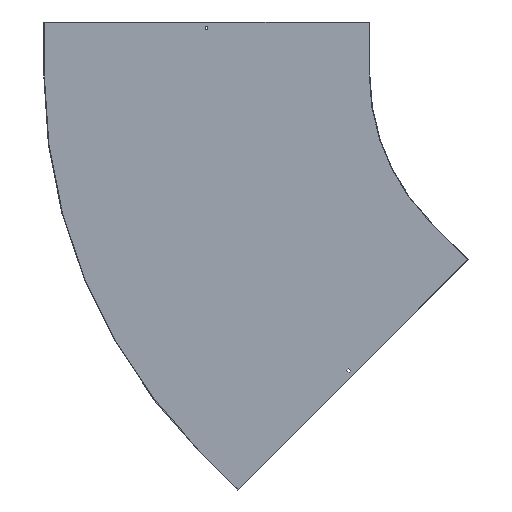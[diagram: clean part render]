
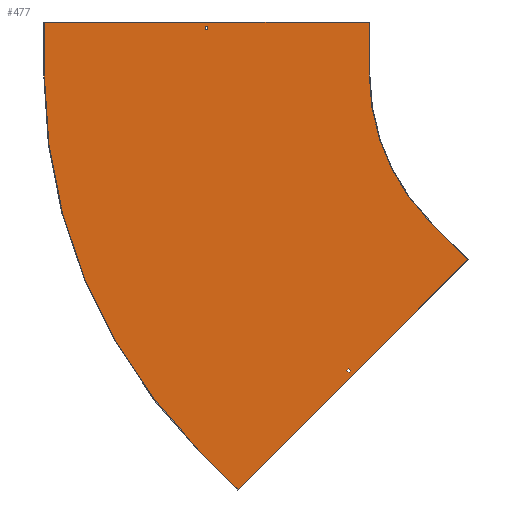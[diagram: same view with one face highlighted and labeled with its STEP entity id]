
A CAD part, front view. The second image highlights one B-rep face of the part: STEP entity #477.
In plain terms, the highlighted planar face has unit normal (0, -1, 0).
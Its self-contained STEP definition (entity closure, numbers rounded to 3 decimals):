
#2 = ORIENTED_EDGE ( 'NONE', *, *, #92, .F. ) ;
#3 = DIRECTION ( 'NONE',  ( 0., 0., -1. ) ) ;
#9 = VECTOR ( 'NONE', #553, 1000. ) ;
#11 = DIRECTION ( 'NONE',  ( 0.707, 0., 0.707 ) ) ;
#22 = CIRCLE ( 'NONE', #788, 590. ) ;
#27 = VECTOR ( 'NONE', #104, 1000. ) ;
#28 = VERTEX_POINT ( 'NONE', #346 ) ;
#29 = CARTESIAN_POINT ( 'NONE',  ( -1510., -1.5, 0. ) ) ;
#44 = CARTESIAN_POINT ( 'NONE',  ( -1053.25, -1.5, 129. ) ) ;
#45 = ORIENTED_EDGE ( 'NONE', *, *, #336, .F. ) ;
#60 = LINE ( 'NONE', #533, #703 ) ;
#61 = LINE ( 'NONE', #509, #454 ) ;
#63 = VERTEX_POINT ( 'NONE', #230 ) ;
#66 = CARTESIAN_POINT ( 'NONE',  ( -642.583, -1.5, -837.745 ) ) ;
#75 = CARTESIAN_POINT ( 'NONE',  ( -1046.75, -1.5, 0. ) ) ;
#88 = LINE ( 'NONE', #599, #416 ) ;
#92 = EDGE_CURVE ( 'NONE', #762, #537, #22, .T. ) ;
#101 = DIRECTION ( 'NONE',  ( 0., 0., -1. ) ) ;
#104 = DIRECTION ( 'NONE',  ( 0., 0., 1. ) ) ;
#107 = DIRECTION ( 'NONE',  ( 0., 0., -1. ) ) ;
#128 = CARTESIAN_POINT ( 'NONE',  ( 0., -1.5, 0. ) ) ;
#138 = LINE ( 'NONE', #796, #575 ) ;
#142 = ORIENTED_EDGE ( 'NONE', *, *, #689, .F. ) ;
#144 = LINE ( 'NONE', #744, #198 ) ;
#153 = CARTESIAN_POINT ( 'NONE',  ( -1053.25, -1.5, 0. ) ) ;
#169 = CARTESIAN_POINT ( 'NONE',  ( -417.193, -1.5, -417.193 ) ) ;
#178 = CARTESIAN_POINT ( 'NONE',  ( 0., -1.5, 138. ) ) ;
#182 = CARTESIAN_POINT ( 'NONE',  ( -590., -1.5, 0. ) ) ;
#192 = DIRECTION ( 'NONE',  ( 1., 0., 0. ) ) ;
#194 = VERTEX_POINT ( 'NONE', #453 ) ;
#198 = VECTOR ( 'NONE', #11, 1000. ) ;
#206 = EDGE_LOOP ( 'NONE', ( #267, #302, #622, #358 ) ) ;
#207 = FACE_BOUND ( 'NONE', #206, .T. ) ;
#215 = VECTOR ( 'NONE', #674, 1000. ) ;
#219 = LINE ( 'NONE', #811, #833 ) ;
#225 = CARTESIAN_POINT ( 'NONE',  ( -1510., -1.5, 150. ) ) ;
#230 = CARTESIAN_POINT ( 'NONE',  ( -1053.25, -1.5, 138. ) ) ;
#237 = DIRECTION ( 'NONE',  ( 0., 1., 0. ) ) ;
#239 = EDGE_CURVE ( 'NONE', #537, #610, #294, .T. ) ;
#242 = CARTESIAN_POINT ( 'NONE',  ( -311.127, -1.5, -523.259 ) ) ;
#262 = EDGE_CURVE ( 'NONE', #28, #791, #748, .T. ) ;
#267 = ORIENTED_EDGE ( 'NONE', *, *, #733, .T. ) ;
#268 = ORIENTED_EDGE ( 'NONE', *, *, #481, .F. ) ;
#294 = LINE ( 'NONE', #488, #546 ) ;
#302 = ORIENTED_EDGE ( 'NONE', *, *, #859, .T. ) ;
#308 = VERTEX_POINT ( 'NONE', #44 ) ;
#332 = CARTESIAN_POINT ( 'NONE',  ( -961.665, -1.5, -1173.797 ) ) ;
#336 = EDGE_CURVE ( 'NONE', #457, #535, #377, .T. ) ;
#343 = CARTESIAN_POINT ( 'NONE',  ( -1510., -1.5, 0. ) ) ;
#346 = CARTESIAN_POINT ( 'NONE',  ( -1067.731, -1.5, -1067.731 ) ) ;
#347 = FACE_OUTER_BOUND ( 'NONE', #464, .T. ) ;
#351 = LINE ( 'NONE', #29, #564 ) ;
#358 = ORIENTED_EDGE ( 'NONE', *, *, #580, .T. ) ;
#366 = LINE ( 'NONE', #153, #27 ) ;
#377 = LINE ( 'NONE', #379, #845 ) ;
#379 = CARTESIAN_POINT ( 'NONE',  ( -744.76, -1.5, -744.76 ) ) ;
#383 = EDGE_CURVE ( 'NONE', #540, #627, #61, .T. ) ;
#399 = ORIENTED_EDGE ( 'NONE', *, *, #414, .F. ) ;
#414 = EDGE_CURVE ( 'NONE', #663, #457, #536, .T. ) ;
#416 = VECTOR ( 'NONE', #101, 1000. ) ;
#420 = DIRECTION ( 'NONE',  ( -1., 0., 0. ) ) ;
#428 = VERTEX_POINT ( 'NONE', #332 ) ;
#446 = LINE ( 'NONE', #178, #740 ) ;
#453 = CARTESIAN_POINT ( 'NONE',  ( -1046.75, -1.5, 129. ) ) ;
#454 = VECTOR ( 'NONE', #192, 1000. ) ;
#456 = AXIS2_PLACEMENT_3D ( 'NONE', #830, #237, #107 ) ;
#457 = VERTEX_POINT ( 'NONE', #543 ) ;
#464 = EDGE_LOOP ( 'NONE', ( #601, #142, #561, #268, #699, #712, #2, #724 ) ) ;
#467 = PLANE ( 'NONE',  #805 ) ;
#472 = DIRECTION ( 'NONE',  ( -0.707, 0., 0.707 ) ) ;
#477 = ADVANCED_FACE ( 'NONE', ( #798, #347, #207 ), #467, .T. ) ;
#481 = EDGE_CURVE ( 'NONE', #428, #28, #219, .T. ) ;
#485 = VERTEX_POINT ( 'NONE', #66 ) ;
#488 = CARTESIAN_POINT ( 'NONE',  ( -417.193, -1.5, -417.193 ) ) ;
#492 = EDGE_CURVE ( 'NONE', #535, #485, #144, .T. ) ;
#497 = CARTESIAN_POINT ( 'NONE',  ( -590., -1.5, 150. ) ) ;
#500 = ORIENTED_EDGE ( 'NONE', *, *, #492, .F. ) ;
#509 = CARTESIAN_POINT ( 'NONE',  ( -1511.5, -1.5, 150. ) ) ;
#522 = EDGE_CURVE ( 'NONE', #627, #762, #88, .T. ) ;
#532 = VERTEX_POINT ( 'NONE', #619 ) ;
#533 = CARTESIAN_POINT ( 'NONE',  ( -310.066, -1.5, -522.198 ) ) ;
#535 = VERTEX_POINT ( 'NONE', #825 ) ;
#536 = LINE ( 'NONE', #669, #215 ) ;
#537 = VERTEX_POINT ( 'NONE', #169 ) ;
#538 = EDGE_LOOP ( 'NONE', ( #759, #500, #45, #399 ) ) ;
#540 = VERTEX_POINT ( 'NONE', #225 ) ;
#543 = CARTESIAN_POINT ( 'NONE',  ( -653.543, -1.5, -835.977 ) ) ;
#546 = VECTOR ( 'NONE', #625, 1000. ) ;
#553 = DIRECTION ( 'NONE',  ( 0., 0., -1. ) ) ;
#561 = ORIENTED_EDGE ( 'NONE', *, *, #262, .F. ) ;
#564 = VECTOR ( 'NONE', #815, 1000. ) ;
#565 = CARTESIAN_POINT ( 'NONE',  ( 0., -1.5, 0. ) ) ;
#567 = LINE ( 'NONE', #628, #630 ) ;
#575 = VECTOR ( 'NONE', #739, 1000. ) ;
#580 = EDGE_CURVE ( 'NONE', #308, #63, #366, .T. ) ;
#582 = DIRECTION ( 'NONE',  ( 1., 0., 0. ) ) ;
#592 = DIRECTION ( 'NONE',  ( 0.707, 0., -0.707 ) ) ;
#599 = CARTESIAN_POINT ( 'NONE',  ( -590., -1.5, 150. ) ) ;
#601 = ORIENTED_EDGE ( 'NONE', *, *, #383, .F. ) ;
#610 = VERTEX_POINT ( 'NONE', #242 ) ;
#613 = EDGE_CURVE ( 'NONE', #194, #308, #567, .T. ) ;
#619 = CARTESIAN_POINT ( 'NONE',  ( -1046.75, -1.5, 138. ) ) ;
#622 = ORIENTED_EDGE ( 'NONE', *, *, #613, .T. ) ;
#625 = DIRECTION ( 'NONE',  ( 0.707, 0., -0.707 ) ) ;
#627 = VERTEX_POINT ( 'NONE', #497 ) ;
#628 = CARTESIAN_POINT ( 'NONE',  ( 0., -1.5, 129. ) ) ;
#630 = VECTOR ( 'NONE', #420, 1000. ) ;
#663 = VERTEX_POINT ( 'NONE', #681 ) ;
#668 = DIRECTION ( 'NONE',  ( -0.707, 0., -0.707 ) ) ;
#669 = CARTESIAN_POINT ( 'NONE',  ( 91.217, -1.5, -91.217 ) ) ;
#674 = DIRECTION ( 'NONE',  ( -0.707, 0., -0.707 ) ) ;
#681 = CARTESIAN_POINT ( 'NONE',  ( -648.947, -1.5, -831.381 ) ) ;
#683 = DIRECTION ( 'NONE',  ( 0., 0., -1. ) ) ;
#689 = EDGE_CURVE ( 'NONE', #791, #540, #351, .T. ) ;
#699 = ORIENTED_EDGE ( 'NONE', *, *, #847, .F. ) ;
#703 = VECTOR ( 'NONE', #668, 1000. ) ;
#712 = ORIENTED_EDGE ( 'NONE', *, *, #239, .F. ) ;
#724 = ORIENTED_EDGE ( 'NONE', *, *, #522, .F. ) ;
#732 = DIRECTION ( 'NONE',  ( 0., -1., 0. ) ) ;
#733 = EDGE_CURVE ( 'NONE', #63, #532, #446, .T. ) ;
#739 = DIRECTION ( 'NONE',  ( -0.707, 0., 0.707 ) ) ;
#740 = VECTOR ( 'NONE', #582, 1000. ) ;
#744 = CARTESIAN_POINT ( 'NONE',  ( 97.581, -1.5, -97.581 ) ) ;
#748 = CIRCLE ( 'NONE', #456, 1510. ) ;
#759 = ORIENTED_EDGE ( 'NONE', *, *, #812, .F. ) ;
#762 = VERTEX_POINT ( 'NONE', #182 ) ;
#788 = AXIS2_PLACEMENT_3D ( 'NONE', #565, #822, #683 ) ;
#791 = VERTEX_POINT ( 'NONE', #343 ) ;
#792 = LINE ( 'NONE', #75, #9 ) ;
#796 = CARTESIAN_POINT ( 'NONE',  ( -740.164, -1.5, -740.164 ) ) ;
#798 = FACE_BOUND ( 'NONE', #538, .T. ) ;
#805 = AXIS2_PLACEMENT_3D ( 'NONE', #128, #732, #3 ) ;
#811 = CARTESIAN_POINT ( 'NONE',  ( -961.665, -1.5, -1173.797 ) ) ;
#812 = EDGE_CURVE ( 'NONE', #485, #663, #138, .T. ) ;
#815 = DIRECTION ( 'NONE',  ( 0., 0., 1. ) ) ;
#822 = DIRECTION ( 'NONE',  ( 0., -1., 0. ) ) ;
#825 = CARTESIAN_POINT ( 'NONE',  ( -647.179, -1.5, -842.341 ) ) ;
#830 = CARTESIAN_POINT ( 'NONE',  ( 0., -1.5, 0. ) ) ;
#833 = VECTOR ( 'NONE', #472, 1000. ) ;
#845 = VECTOR ( 'NONE', #592, 1000. ) ;
#847 = EDGE_CURVE ( 'NONE', #610, #428, #60, .T. ) ;
#859 = EDGE_CURVE ( 'NONE', #532, #194, #792, .T. ) ;
